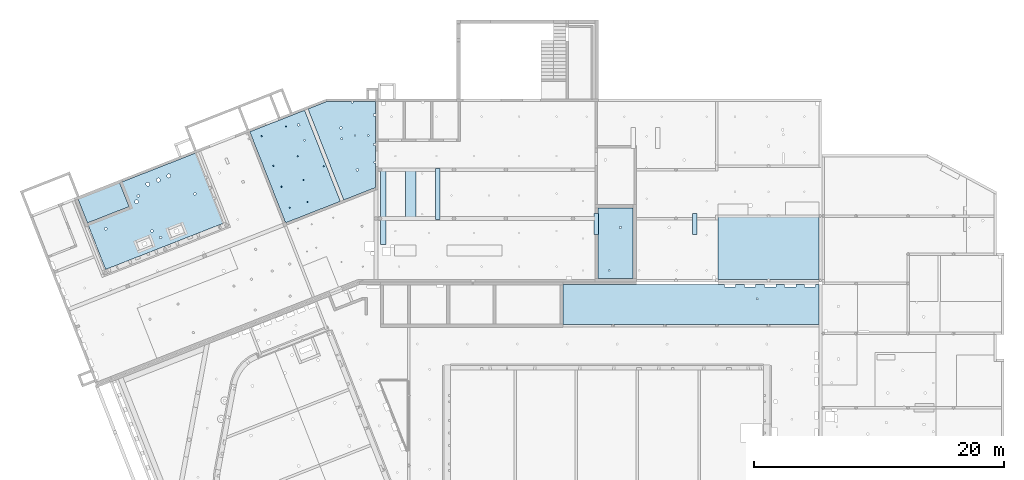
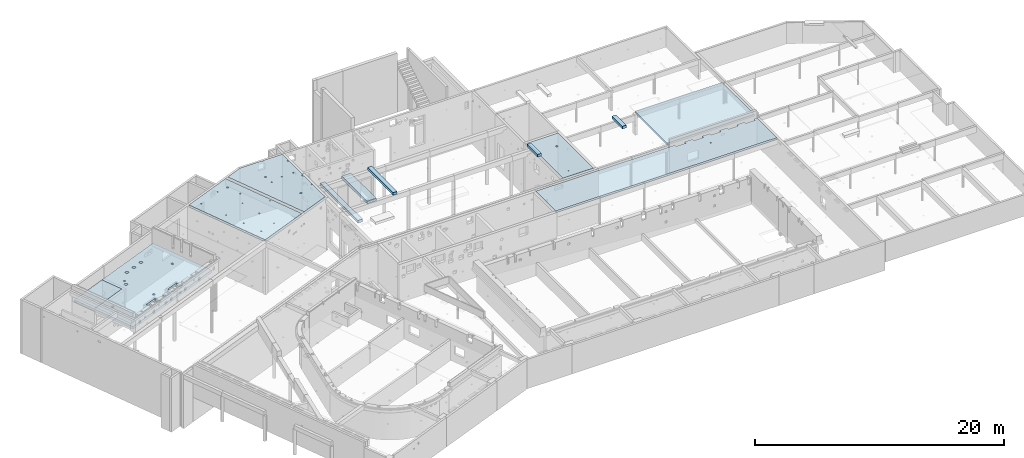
# One storey, part 10 of 28: 11 slabs, 39 openings.
"""IFC2X3 building model written with IfcOpenShell, lengths in metres."""

from ifc_helpers import new_model, entity, si_unit, converted_unit, direction, frame, frame_2d, origin, origin_with_axes, origin_2d_with_axis, place, context, subcontext, project, spatial, polyline, rectangle, circle, outline, extrude, material, element, save


model = new_model("IFC2X3")

# Units and contexts
model_context = context("Model", 3, precision=1e-05, world=origin(), true_north=direction((-0.407059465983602, -0.913401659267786)))
body_context = subcontext(model_context, "Body", "Model", "MODEL_VIEW")
ifc_project = project(units=[si_unit("LENGTHUNIT", "METRE"), si_unit("AREAUNIT", "SQUARE_METRE"), si_unit("VOLUMEUNIT", "CUBIC_METRE"), si_unit("MASSUNIT", "GRAM", prefix="KILO"), converted_unit("PLANEANGLEUNIT", "DEGREE", entity("IfcPlaneAngleMeasure", 0.0174532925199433), si_unit("PLANEANGLEUNIT", "RADIAN"), dimensions=[0, 0, 0, 0, 0, 0, 0])], contexts=[model_context])

# Site, buildings, storey
site_placement = place(None, origin())
site = spatial("IfcSite", under=ifc_project, at=site_placement, Name="Site", CompositionType="ELEMENT")
building_1_placement = place(site_placement, origin())
building_1 = spatial("IfcBuilding", under=site, at=building_1_placement, Name="Site", CompositionType="COMPLEX")
building_2_placement = place(building_1_placement, origin())
building_2 = spatial("IfcBuilding", under=building_1, at=building_2_placement, Name="Bâtiments", CompositionType="ELEMENT")
storey_placement = place(building_2_placement, frame((0.0, 0.0, -5.3)))
storey = spatial("IfcBuildingStorey", under=building_2, at=storey_placement, Name="SOUS-SOL", CompositionType="ELEMENT", Elevation=-5.3)

# Slabs
ifc_material_1 = material(Name="Dalle_BA")
slab_1_placement = place(storey_placement, frame((45.1712427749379, -1.41979729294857, 5.18)))
element("IfcSlab", 1, at=slab_1_placement, inside=storey, material=ifc_material_1, PredefinedType="FLOOR", context=body_context, shape_type="SweptSolid", body=[
    extrude(rectangle(XDim=1.68, YDim=0.38, at=frame_2d((0.19, -0.840000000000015), x_axis=(0.0, -1.0))), frame((0.0, 1.68000000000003, 0.0), z_axis=(0.0, 0.0, 1.0), x_axis=(1.0, 0.0, 0.0)), (0.0, 0.0, 1.0), 0.26),
])
ifc_material_2 = material(Name="Dalle_BA")
slab_2_placement = place(storey_placement, frame((28.0826349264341, -2.21478004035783, 5.18)))
element("IfcSlab", 2, at=slab_2_placement, inside=storey, material=ifc_material_2, PredefinedType="FLOOR", context=body_context, shape_type="SweptSolid", body=[
    extrude(rectangle(XDim=6.06162586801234, YDim=0.430023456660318, at=frame_2d((0.215011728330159, -3.03081293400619), x_axis=(0.0, -1.0))), frame((0.0, 6.06162586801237, 0.0), z_axis=(0.0, 0.0, 1.0), x_axis=(1.0, 0.0, 0.0)), (0.0, 0.0, 1.0), 0.26),
])
ifc_material_3 = material(Name="Dalle_BA")
slab_3_placement = place(storey_placement, frame((30.0626574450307, -0.233154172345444, 5.18)))
element("IfcSlab", 3, at=slab_3_placement, inside=storey, material=ifc_material_3, PredefinedType="FLOOR", context=body_context, shape_type="SweptSolid", body=[
    extrude(rectangle(XDim=4.08, YDim=0.86, at=frame_2d((0.43, -2.04), x_axis=(0.0, -1.0))), frame((0.0, 4.08, 0.0), z_axis=(0.0, 0.0, 1.0), x_axis=(1.0, 0.0, 0.0)), (0.0, 0.0, 1.0), 0.26),
])
ifc_material_4 = material(Name="Dalle_BA")
slab_4_placement = place(storey_placement, frame((32.4726772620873, -0.233154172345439, 5.18)))
element("IfcSlab", 4, at=slab_4_placement, inside=storey, material=ifc_material_4, PredefinedType="FLOOR", context=body_context, shape_type="SweptSolid", body=[
    extrude(rectangle(XDim=4.08, YDim=0.379999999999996, at=frame_2d((0.189999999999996, -2.04), x_axis=(0.0, -1.0))), frame((0.0, 4.08, 0.0), z_axis=(0.0, 0.0, 1.0), x_axis=(1.0, 0.0, 0.0)), (0.0, 0.0, 1.0), 0.26),
])
ifc_material_5 = material(Name="Dalle_BA")
slab_5_placement = place(storey_placement, frame((53.0516308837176, -1.41618710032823, 5.18)))
element("IfcSlab", 5, at=slab_5_placement, inside=storey, material=ifc_material_5, PredefinedType="FLOOR", context=body_context, shape_type="SweptSolid", body=[
    extrude(rectangle(XDim=1.68, YDim=0.38, at=frame_2d((0.19, -0.840000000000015), x_axis=(0.0, -1.0))), frame((0.0, 1.68000000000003, 0.0), z_axis=(0.0, 0.0, 1.0), x_axis=(1.0, 0.0, 0.0)), (0.0, 0.0, 1.0), 0.26),
])

# Slab, openings
ifc_material_6 = material(Name="Dalle_BA")
slab_6_placement = place(storey_placement, frame((45.4926440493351, -4.9689369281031, 4.93)))
slab_6 = element("IfcSlab", 6, at=slab_6_placement, inside=storey, material=ifc_material_6, PredefinedType="FLOOR", context=body_context, shape_type="SweptSolid", body=[
    extrude(outline(polyline([(2.82205293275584, 0.0), (2.82205293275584, 5.67274784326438), (0.0, 5.67274784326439), (0.0, 6.08707630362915e-06), (2.82205293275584, 0.0)])), origin_with_axes(), (0.0, 0.0, 1.0), 0.25),
])
opening_1_placement = place(slab_6_placement, frame((1.70907199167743, 4.021677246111, 0.0)))
element("IfcOpeningElement", 7, at=opening_1_placement, cuts=slab_6, Name="Trémie dans dalle", ObjectType="Opening", context=body_context, shape_type="SweptSolid", body=[
    extrude(circle(Radius=0.0900000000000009, at=frame_2d((1.45519152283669e-14, -2.27373675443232e-16), x_axis=(1.0, 0.0))), frame((0.0896285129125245, 0.0896285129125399, 0.0), z_axis=(0.0, 0.0, 1.0), x_axis=(1.0, 0.0, 0.0)), (0.0, 0.0, 1.0), 0.25),
])
opening_2_placement = place(slab_6_placement, frame((0.847420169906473, 0.613415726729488, 0.0)))
element("IfcOpeningElement", 8, at=opening_2_placement, cuts=slab_6, Name="Trémie dans dalle", ObjectType="Opening", context=body_context, shape_type="SweptSolid", body=[
    extrude(circle(Radius=0.05, at=frame_2d((7.27595761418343e-15, 0.0), x_axis=(1.0, 0.0))), frame((0.0497936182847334, 0.0497936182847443, 0.0), z_axis=(0.0, 0.0, 1.0), x_axis=(1.0, 0.0, 0.0)), (0.0, 0.0, 1.0), 0.25),
])

ifc_material_7 = material(Name="Dalle_BA")
slab_7_placement = place(storey_placement, frame((17.6079277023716, -0.478539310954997, 4.98)))
slab_7 = element("IfcSlab", 9, at=slab_7_placement, inside=storey, material=ifc_material_7, PredefinedType="FLOOR", context=body_context, shape_type="SweptSolid", body=[
    extrude(outline(polyline([(4.38394387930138, 8.99970859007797), (0.0, 7.27965223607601), (2.84509563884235, 0.0282915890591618), (2.8916198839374, 0.0465455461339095), (2.90988219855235, 0.0), (7.24730367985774, 1.70180312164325), (4.38394387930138, 8.99970859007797)])), origin_with_axes(), (0.0, 0.0, 1.0), 0.2),
    extrude(outline(polyline([(2.86335980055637, 0.0), (5.39148675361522, 0.991919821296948), (5.39150255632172, 7.87754960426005), (1.47735122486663, 7.87754960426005), (0.0, 7.29790546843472), (2.86335980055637, 0.0)])), frame((4.66321715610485, 1.81137700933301, 0.0), z_axis=(0.0, 0.0, 1.0), x_axis=(1.0, 0.0, 0.0)), (0.0, 0.0, 1.0), 0.2),
])
opening_3_placement = place(slab_7_placement, frame((3.81130384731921, 7.736444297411, 0.0)))
element("IfcOpeningElement", 10, at=opening_3_placement, cuts=slab_7, Name="Trémie dans dalle", ObjectType="Opening", context=body_context, shape_type="SweptSolid", body=[
    extrude(rectangle(XDim=0.150000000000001, YDim=0.150000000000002, at=frame_2d((1.81898940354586e-15, -9.09494701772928e-16), x_axis=(0.36524629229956, -0.930910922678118))), frame((0.0972117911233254, 0.0972117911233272, 0.0), z_axis=(0.0, 0.0, 1.0), x_axis=(1.0, 0.0, 0.0)), (0.0, 0.0, 1.0), 0.2),
])
opening_4_placement = place(slab_7_placement, frame((4.30534243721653, 6.52370347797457, 0.0)))
element("IfcOpeningElement", 11, at=opening_4_placement, cuts=slab_7, Name="Trémie dans dalle", ObjectType="Opening", context=body_context, shape_type="SweptSolid", body=[
    extrude(rectangle(XDim=0.0999999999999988, YDim=0.100000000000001, at=frame_2d((1.81898940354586e-15, 0.0), x_axis=(0.365246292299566, -0.930910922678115))), frame((0.0648078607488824, 0.0648078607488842, 0.0), z_axis=(0.0, 0.0, 1.0), x_axis=(1.0, 0.0, 0.0)), (0.0, 0.0, 1.0), 0.2),
])
opening_5_placement = place(slab_7_placement, frame((9.95479882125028, 4.78003726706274, 0.0)))
element("IfcOpeningElement", 12, at=opening_5_placement, cuts=slab_7, Name="Trémie dans dalle", ObjectType="Opening", context=body_context, shape_type="SweptSolid", body=[
    extrude(rectangle(XDim=0.1, YDim=0.1, at=frame_2d((-7.27595761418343e-15, -9.09494701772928e-16), x_axis=(0.0, -1.0))), frame((0.0500000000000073, 0.0500000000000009, 0.0), z_axis=(0.0, 0.0, 1.0), x_axis=(1.0, 0.0, 0.0)), (0.0, 0.0, 1.0), 0.2),
])
opening_6_placement = place(slab_7_placement, frame((9.90475263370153, 6.19396034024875, 0.0)))
element("IfcOpeningElement", 13, at=opening_6_placement, cuts=slab_7, Name="Trémie dans dalle", ObjectType="Opening", context=body_context, shape_type="SweptSolid", body=[
    extrude(rectangle(XDim=0.15, YDim=0.15, at=frame_2d((-3.63797880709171e-15, 0.0), x_axis=(0.0, -1.0))), frame((0.0750000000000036, 0.075, 0.0), z_axis=(0.0, 0.0, 1.0), x_axis=(1.0, 0.0, 0.0)), (0.0, 0.0, 1.0), 0.2),
])
opening_7_placement = place(slab_7_placement, frame((9.90471711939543, 8.55907885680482, 0.0)))
element("IfcOpeningElement", 14, at=opening_7_placement, cuts=slab_7, Name="Trémie dans dalle", ObjectType="Opening", context=body_context, shape_type="SweptSolid", body=[
    extrude(rectangle(XDim=0.15, YDim=0.15, at=frame_2d((-3.63797880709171e-15, -1.81898940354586e-15), x_axis=(0.0, -1.0))), frame((0.0750000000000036, 0.0750000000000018, 0.0), z_axis=(0.0, 0.0, 1.0), x_axis=(1.0, 0.0, 0.0)), (0.0, 0.0, 1.0), 0.2),
])
opening_8_placement = place(slab_7_placement, frame((7.31418396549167, 6.6707805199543, 0.0)))
element("IfcOpeningElement", 15, at=opening_8_placement, cuts=slab_7, Name="Trémie dans dalle", ObjectType="Opening", context=body_context, shape_type="SweptSolid", body=[
    extrude(rectangle(XDim=0.1, YDim=0.1, at=frame_2d((0.0, 0.0), x_axis=(0.0, -1.0))), frame((0.05, 0.05, 0.0), z_axis=(0.0, 0.0, 1.0), x_axis=(1.0, 0.0, 0.0)), (0.0, 0.0, 1.0), 0.2),
])
opening_9_placement = place(slab_7_placement, frame((8.36904439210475, 6.92078067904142, 0.0)))
element("IfcOpeningElement", 16, at=opening_9_placement, cuts=slab_7, Name="Trémie dans dalle", ObjectType="Opening", context=body_context, shape_type="SweptSolid", body=[
    extrude(rectangle(XDim=0.1, YDim=0.1, at=frame_2d((0.0, 0.0), x_axis=(0.0, -1.0))), frame((0.05, 0.05, 0.0), z_axis=(0.0, 0.0, 1.0), x_axis=(1.0, 0.0, 0.0)), (0.0, 0.0, 1.0), 0.2),
])
opening_10_placement = place(slab_7_placement, frame((9.44582856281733, 6.92078011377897, 0.0)))
element("IfcOpeningElement", 17, at=opening_10_placement, cuts=slab_7, Name="Trémie dans dalle", ObjectType="Opening", context=body_context, shape_type="SweptSolid", body=[
    extrude(rectangle(XDim=0.1, YDim=0.1, at=frame_2d((0.0, 0.0), x_axis=(0.0, -1.0))), frame((0.05, 0.05, 0.0), z_axis=(0.0, 0.0, 1.0), x_axis=(1.0, 0.0, 0.0)), (0.0, 0.0, 1.0), 0.2),
])
opening_11_placement = place(slab_7_placement, frame((8.15066722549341, 9.58896270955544, 0.0)))
element("IfcOpeningElement", 18, at=opening_11_placement, cuts=slab_7, Name="Trémie dans dalle", ObjectType="Opening", context=body_context, shape_type="SweptSolid", body=[
    extrude(rectangle(XDim=0.1, YDim=0.1, at=frame_2d((0.0, 0.0), x_axis=(0.0, -1.0))), frame((0.05, 0.05, 0.0), z_axis=(0.0, 0.0, 1.0), x_axis=(1.0, 0.0, 0.0)), (0.0, 0.0, 1.0), 0.2),
])
opening_12_placement = place(slab_7_placement, frame((5.87312087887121, 4.47507438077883, 0.18)))
element("IfcOpeningElement", 19, at=opening_12_placement, cuts=slab_7, Name="Trémie dans dalle", ObjectType="Opening", context=body_context, shape_type="SweptSolid", body=[
    extrude(circle(Radius=0.05, at=frame_2d((-3.63797880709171e-15, 9.09494701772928e-16), x_axis=(1.0, 0.0))), frame((0.0497936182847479, 0.0497936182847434, 0.0), z_axis=(0.0, 0.0, 1.0), x_axis=(1.0, 0.0, 0.0)), (0.0, 0.0, 1.0), 0.02),
])
opening_13_placement = place(slab_7_placement, frame((4.25233930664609, 3.37215506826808, 0.18)))
element("IfcOpeningElement", 20, at=opening_13_placement, cuts=slab_7, Name="Trémie dans dalle", ObjectType="Opening", context=body_context, shape_type="SweptSolid", body=[
    extrude(circle(Radius=0.05, at=frame_2d((1.09139364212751e-14, -4.54747350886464e-16), x_axis=(1.0, 0.0))), frame((0.0497936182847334, 0.0497936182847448, 0.0), z_axis=(0.0, 0.0, 1.0), x_axis=(1.0, 0.0, 0.0)), (0.0, 0.0, 1.0), 0.02),
])
opening_14_placement = place(slab_7_placement, frame((4.58206193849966, 1.59956036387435, 0.18)))
element("IfcOpeningElement", 21, at=opening_14_placement, cuts=slab_7, Name="Trémie dans dalle", ObjectType="Opening", context=body_context, shape_type="SweptSolid", body=[
    extrude(circle(Radius=0.05, at=frame_2d((-3.63797880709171e-15, 4.54747350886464e-16), x_axis=(1.0, 0.0))), frame((0.0497936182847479, 0.0497936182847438, 0.0), z_axis=(0.0, 0.0, 1.0), x_axis=(1.0, 0.0, 0.0)), (0.0, 0.0, 1.0), 0.02),
])
opening_15_placement = place(slab_7_placement, frame((3.1519417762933, 1.14390330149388, 0.18)))
element("IfcOpeningElement", 22, at=opening_15_placement, cuts=slab_7, Name="Trémie dans dalle", ObjectType="Opening", context=body_context, shape_type="SweptSolid", body=[
    extrude(circle(Radius=0.05, at=frame_2d((-3.63797880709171e-15, 1.13686837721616e-16), x_axis=(1.0, 0.0))), frame((0.0497936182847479, 0.0497936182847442, 0.0), z_axis=(0.0, 0.0, 1.0), x_axis=(1.0, 0.0, 0.0)), (0.0, 0.0, 1.0), 0.02),
])
opening_16_placement = place(slab_7_placement, frame((2.49456207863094, 2.82280360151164, 0.18)))
element("IfcOpeningElement", 23, at=opening_16_placement, cuts=slab_7, Name="Trémie dans dalle", ObjectType="Opening", context=body_context, shape_type="SweptSolid", body=[
    extrude(circle(Radius=0.05, at=frame_2d((3.63797880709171e-15, -9.09494701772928e-16), x_axis=(1.0, 0.0))), frame((0.0497936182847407, 0.0497936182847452, 0.0), z_axis=(0.0, 0.0, 1.0), x_axis=(1.0, 0.0, 0.0)), (0.0, 0.0, 1.0), 0.02),
])
opening_17_placement = place(slab_7_placement, frame((1.83489803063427, 4.50078157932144, 0.18)))
element("IfcOpeningElement", 24, at=opening_17_placement, cuts=slab_7, Name="Trémie dans dalle", ObjectType="Opening", context=body_context, shape_type="SweptSolid", body=[
    extrude(circle(Radius=0.0500000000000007, at=frame_2d((-3.63797880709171e-15, -9.09494701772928e-16), x_axis=(1.0, 0.0))), frame((0.0497936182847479, 0.0497936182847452, 0.0), z_axis=(0.0, 0.0, 1.0), x_axis=(1.0, 0.0, 0.0)), (0.0, 0.0, 1.0), 0.02),
])
opening_18_placement = place(slab_7_placement, frame((3.79216170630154, 5.27002108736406, 0.18)))
element("IfcOpeningElement", 25, at=opening_18_placement, cuts=slab_7, Name="Trémie dans dalle", ObjectType="Opening", context=body_context, shape_type="SweptSolid", body=[
    extrude(circle(Radius=0.0500000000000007, at=frame_2d((3.63797880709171e-15, -1.81898940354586e-15), x_axis=(1.0, 0.0))), frame((0.0497936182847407, 0.0497936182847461, 0.0), z_axis=(0.0, 0.0, 1.0), x_axis=(1.0, 0.0, 0.0)), (0.0, 0.0, 1.0), 0.02),
])
opening_19_placement = place(slab_7_placement, frame((0.901121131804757, 6.87741780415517, 0.18)))
element("IfcOpeningElement", 26, at=opening_19_placement, cuts=slab_7, Name="Trémie dans dalle", ObjectType="Opening", context=body_context, shape_type="SweptSolid", body=[
    extrude(circle(Radius=0.0500000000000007, at=frame_2d((3.63797880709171e-15, -1.81898940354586e-15), x_axis=(1.0, 0.0))), frame((0.0497936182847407, 0.0497936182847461, 0.0), z_axis=(0.0, 0.0, 1.0), x_axis=(1.0, 0.0, 0.0)), (0.0, 0.0, 1.0), 0.02),
])
opening_20_placement = place(slab_7_placement, frame((2.85883466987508, 7.64551070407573, 0.18)))
element("IfcOpeningElement", 27, at=opening_20_placement, cuts=slab_7, Name="Trémie dans dalle", ObjectType="Opening", context=body_context, shape_type="SweptSolid", body=[
    extrude(circle(Radius=0.0500000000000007, at=frame_2d((-3.63797880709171e-15, 1.81898940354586e-15), x_axis=(1.0, 0.0))), frame((0.0497936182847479, 0.0497936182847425, 0.0), z_axis=(0.0, 0.0, 1.0), x_axis=(1.0, 0.0, 0.0)), (0.0, 0.0, 1.0), 0.02),
])
opening_21_placement = place(slab_7_placement, frame((8.52272134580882, 4.13774948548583, 0.0)))
element("IfcOpeningElement", 28, at=opening_21_placement, cuts=slab_7, Name="Trémie dans dalle", ObjectType="Opening", context=body_context, shape_type="SweptSolid", body=[
    extrude(circle(Radius=0.0900000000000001, at=frame_2d((-1.09139364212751e-14, 0.0), x_axis=(1.0, 0.0))), frame((0.0896285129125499, 0.0896285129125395, 0.0), z_axis=(0.0, 0.0, 1.0), x_axis=(1.0, 0.0, 0.0)), (0.0, 0.0, 1.0), 0.2),
])
opening_22_placement = place(slab_7_placement, frame((7.19734745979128, 7.50588338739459, 0.0)))
element("IfcOpeningElement", 29, at=opening_22_placement, cuts=slab_7, Name="Trémie dans dalle", ObjectType="Opening", context=body_context, shape_type="SweptSolid", body=[
    extrude(circle(Radius=0.0899999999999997, at=frame_2d((1.09139364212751e-14, 2.72848410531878e-15), x_axis=(1.0, 0.0))), frame((0.0896285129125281, 0.0896285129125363, 0.0), z_axis=(0.0, 0.0, 1.0), x_axis=(1.0, 0.0, 0.0)), (0.0, 0.0, 1.0), 0.2),
])

ifc_material_8 = material(Name="Dalle_BA")
slab_8_placement = place(storey_placement, frame((42.6996043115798, -8.63391084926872, 4.96)))
slab_8 = element("IfcSlab", 30, at=slab_8_placement, inside=storey, material=ifc_material_8, PredefinedType="FLOOR", context=body_context, shape_type="SweptSolid", body=[
    extrude(outline(polyline([(0.0, 1.3115641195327e-10), (20.5137637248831, 0.0), (20.5137637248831, 3.19496032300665), (12.9096170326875, 3.19496032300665), (0.000274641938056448, 3.19502133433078), (0.0, 1.3115641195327e-10)])), origin_with_axes(), (0.0, 0.0, 1.0), 0.2),
])
opening_23_placement = place(slab_8_placement, frame((12.9096170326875, 2.98746775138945, 0.0)))
element("IfcOpeningElement", 31, at=opening_23_placement, cuts=slab_8, Name="Trémie dans dalle", ObjectType="Opening", context=body_context, shape_type="SweptSolid", body=[
    extrude(rectangle(XDim=0.899604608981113, YDim=0.207506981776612, at=frame_2d((0.0, -4.54747350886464e-16), x_axis=(1.0, 0.0))), frame((0.449802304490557, 0.103753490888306, 0.0), z_axis=(0.0, 0.0, 1.0), x_axis=(1.0, 0.0, 0.0)), (0.0, 0.0, 1.0), 0.2),
])
opening_24_placement = place(slab_8_placement, frame((14.5291201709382, 2.98746775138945, 0.0)))
element("IfcOpeningElement", 32, at=opening_24_placement, cuts=slab_8, Name="Trémie dans dalle", ObjectType="Opening", context=body_context, shape_type="SweptSolid", body=[
    extrude(rectangle(XDim=0.899604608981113, YDim=0.207506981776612, at=frame_2d((7.27595761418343e-15, -4.54747350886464e-16), x_axis=(1.0, 0.0))), frame((0.449802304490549, 0.103753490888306, 0.0), z_axis=(0.0, 0.0, 1.0), x_axis=(1.0, 0.0, 0.0)), (0.0, 0.0, 1.0), 0.2),
])
opening_25_placement = place(slab_8_placement, frame((16.1485776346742, 2.98746775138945, 0.0)))
element("IfcOpeningElement", 33, at=opening_25_placement, cuts=slab_8, Name="Trémie dans dalle", ObjectType="Opening", context=body_context, shape_type="SweptSolid", body=[
    extrude(rectangle(XDim=0.899604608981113, YDim=0.207506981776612, at=frame_2d((0.0, -4.54747350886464e-16), x_axis=(1.0, 0.0))), frame((0.449802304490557, 0.103753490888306, 0.0), z_axis=(0.0, 0.0, 1.0), x_axis=(1.0, 0.0, 0.0)), (0.0, 0.0, 1.0), 0.2),
])
opening_26_placement = place(slab_8_placement, frame((17.7369762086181, 2.98746114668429, 0.0)))
element("IfcOpeningElement", 34, at=opening_26_placement, cuts=slab_8, Name="Trémie dans dalle", ObjectType="Opening", context=body_context, shape_type="SweptSolid", body=[
    extrude(rectangle(XDim=0.899604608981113, YDim=0.207506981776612, at=frame_2d((-7.27595761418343e-15, 4.54747350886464e-16), x_axis=(1.0, 0.0))), frame((0.449802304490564, 0.103753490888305, 0.0), z_axis=(0.0, 0.0, 1.0), x_axis=(1.0, 0.0, 0.0)), (0.0, 0.0, 1.0), 0.2),
])
opening_27_placement = place(slab_8_placement, frame((19.3252526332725, 2.98745454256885, 0.0)))
element("IfcOpeningElement", 35, at=opening_27_placement, cuts=slab_8, Name="Trémie dans dalle", ObjectType="Opening", context=body_context, shape_type="SweptSolid", body=[
    extrude(rectangle(XDim=0.899604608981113, YDim=0.207506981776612, at=frame_2d((0.0, -4.54747350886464e-16), x_axis=(1.0, 0.0))), frame((0.449802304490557, 0.103753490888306, 0.0), z_axis=(0.0, 0.0, 1.0), x_axis=(1.0, 0.0, 0.0)), (0.0, 0.0, 1.0), 0.2),
])
opening_28_placement = place(slab_8_placement, frame((15.4748673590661, 1.98038639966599, 0.0)))
element("IfcOpeningElement", 36, at=opening_28_placement, cuts=slab_8, Name="Trémie dans dalle", ObjectType="Opening", context=body_context, shape_type="SweptSolid", body=[
    extrude(circle(Radius=0.0649999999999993, at=frame_2d((1.45519152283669e-14, 9.09494701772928e-16), x_axis=(1.0, 0.0))), frame((0.0647317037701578, 0.0647317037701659, 0.0), z_axis=(0.0, 0.0, 1.0), x_axis=(1.0, 0.0, 0.0)), (0.0, 0.0, 1.0), 0.2),
])

ifc_material_9 = material(Name="Béton")
slab_9_placement = place(storey_placement, frame((3.85285940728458, -4.22892576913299, 3.72)))
slab_9 = element("IfcSlab", 37, at=slab_9_placement, inside=storey, material=ifc_material_9, PredefinedType="FLOOR", context=body_context, shape_type="SweptSolid", body=[
    extrude(outline(polyline([(0.0, 5.63318753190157), (2.20671843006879, 0.0), (2.20973716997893, 0.00118383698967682), (2.20974080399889, 0.0011852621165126), (6.89005698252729, 1.83663037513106), (6.89005826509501, 1.8366308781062), (11.659944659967, 3.70720208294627), (9.44959373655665, 9.34077006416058), (3.33049729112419, 6.93992027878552), (4.07938636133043, 5.03121092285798), (0.748892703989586, 3.72447960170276), (3.63378358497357e-06, 5.6331889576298), (0.0, 5.63318753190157)])), origin_with_axes(), (0.0, 0.0, 1.0), 0.25),
])
opening_29_placement = place(slab_9_placement, frame((4.68269151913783, 1.5478546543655, 0.0)))
element("IfcOpeningElement", 38, at=opening_29_placement, cuts=slab_9, Name="Trémie dans dalle", ObjectType="Opening", context=body_context, shape_type="SweptSolid", body=[
    extrude(rectangle(XDim=0.650000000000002, YDim=1.1, at=frame_2d((0.0, 2.27373675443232e-16), x_axis=(0.365246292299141, -0.930910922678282))), frame((0.630706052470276, 0.503431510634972, 0.0), z_axis=(0.0, 0.0, 1.0), x_axis=(1.0, 0.0, 0.0)), (0.0, 0.0, 1.0), 0.25),
])
opening_30_placement = place(slab_9_placement, frame((7.26101190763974, 2.55830531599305, 0.0)))
element("IfcOpeningElement", 39, at=opening_30_placement, cuts=slab_9, Name="Trémie dans dalle", ObjectType="Opening", context=body_context, shape_type="SweptSolid", body=[
    extrude(rectangle(XDim=0.650000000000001, YDim=1.1, at=frame_2d((0.0, 3.41060513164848e-16), x_axis=(0.365246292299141, -0.930910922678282))), frame((0.630706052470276, 0.503431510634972, 0.0), z_axis=(0.0, 0.0, 1.0), x_axis=(1.0, 0.0, 0.0)), (0.0, 0.0, 1.0), 0.25),
])
opening_31_placement = place(slab_9_placement, frame((5.44179914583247, 6.68444549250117, 0.0)))
element("IfcOpeningElement", 40, at=opening_31_placement, cuts=slab_9, Name="Trémie dans dalle", ObjectType="Opening", context=body_context, shape_type="SweptSolid", body=[
    extrude(circle(Radius=0.149999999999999, at=frame_2d((1.81898940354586e-15, 9.09494701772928e-16), x_axis=(1.0, 0.0))), frame((0.149380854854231, 0.149380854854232, 0.0), z_axis=(0.0, 0.0, 1.0), x_axis=(1.0, 0.0, 0.0)), (0.0, 0.0, 1.0), 0.25),
])
opening_32_placement = place(slab_9_placement, frame((6.27979139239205, 7.01272775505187, 0.0)))
element("IfcOpeningElement", 41, at=opening_32_placement, cuts=slab_9, Name="Trémie dans dalle", ObjectType="Opening", context=body_context, shape_type="SweptSolid", body=[
    extrude(circle(Radius=0.149999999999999, at=frame_2d((3.63797880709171e-15, 9.09494701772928e-16), x_axis=(1.0, 0.0))), frame((0.149380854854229, 0.149380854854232, 0.0), z_axis=(0.0, 0.0, 1.0), x_axis=(1.0, 0.0, 0.0)), (0.0, 0.0, 1.0), 0.25),
])
opening_33_placement = place(slab_9_placement, frame((7.11714581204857, 7.34263563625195, 0.0)))
element("IfcOpeningElement", 42, at=opening_33_placement, cuts=slab_9, Name="Trémie dans dalle", ObjectType="Opening", context=body_context, shape_type="SweptSolid", body=[
    extrude(circle(Radius=0.149999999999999, at=frame_2d((0.0, -4.54747350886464e-16), x_axis=(1.0, 0.0))), frame((0.149380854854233, 0.149380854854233, 0.0), z_axis=(0.0, 0.0, 1.0), x_axis=(1.0, 0.0, 0.0)), (0.0, 0.0, 1.0), 0.25),
])
opening_34_placement = place(slab_9_placement, frame((4.72275893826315, 5.78613374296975, 0.0)))
element("IfcOpeningElement", 43, at=opening_34_placement, cuts=slab_9, Name="Trémie dans dalle", ObjectType="Opening", context=body_context, shape_type="SweptSolid", body=[
    extrude(circle(Radius=0.0999999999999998, at=frame_2d((5.45696821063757e-15, -4.54747350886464e-16), x_axis=(1.0, 0.0))), frame((0.100351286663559, 0.100351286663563, 0.0), z_axis=(0.0, 0.0, 1.0), x_axis=(1.0, 0.0, 0.0)), (0.0, 0.0, 1.0), 0.25),
])
opening_35_placement = place(slab_9_placement, frame((4.54001855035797, 5.27251460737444, 0.0)))
element("IfcOpeningElement", 44, at=opening_35_placement, cuts=slab_9, Name="Trémie dans dalle", ObjectType="Opening", context=body_context, shape_type="SweptSolid", body=[
    extrude(circle(Radius=0.149999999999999, at=frame_2d((0.0, 1.13686837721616e-15), x_axis=(1.0, 0.0))), frame((0.149380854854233, 0.149380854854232, 0.0), z_axis=(0.0, 0.0, 1.0), x_axis=(1.0, 0.0, 0.0)), (0.0, 0.0, 1.0), 0.25),
])
opening_36_placement = place(slab_9_placement, frame((9.25133227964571, 5.9524179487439, 0.0)))
element("IfcOpeningElement", 45, at=opening_36_placement, cuts=slab_9, Name="Trémie dans dalle", ObjectType="Opening", context=body_context, shape_type="SweptSolid", body=[
    extrude(circle(Radius=0.0999999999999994, at=frame_2d((-3.63797880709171e-15, 1.13686837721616e-15), x_axis=(1.0, 0.0))), frame((0.100351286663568, 0.100351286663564, 0.0), z_axis=(0.0, 0.0, 1.0), x_axis=(1.0, 0.0, 0.0)), (0.0, 0.0, 1.0), 0.25),
])
opening_37_placement = place(slab_9_placement, frame((5.81910469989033, 2.99594812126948, 0.0)))
element("IfcOpeningElement", 46, at=opening_37_placement, cuts=slab_9, Name="Trémie dans dalle", ObjectType="Opening", context=body_context, shape_type="SweptSolid", body=[
    extrude(circle(Radius=0.0999999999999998, at=frame_2d((0.0, -1.36424205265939e-15), x_axis=(1.0, 0.0))), frame((0.100351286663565, 0.100351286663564, 0.0), z_axis=(0.0, 0.0, 1.0), x_axis=(1.0, 0.0, 0.0)), (0.0, 0.0, 1.0), 0.25),
])
opening_38_placement = place(slab_9_placement, frame((6.50423455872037, 2.4574937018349, -2.27373675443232e-16)))
element("IfcOpeningElement", 47, at=opening_38_placement, cuts=slab_9, Name="Trémie dans dalle", ObjectType="Opening", context=body_context, shape_type="SweptSolid", body=[
    extrude(circle(Radius=0.0999999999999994, at=origin_2d_with_axis()), frame((0.100351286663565, 0.100351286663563, 2.27373675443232e-16), z_axis=(0.0, 0.0, 1.0), x_axis=(1.0, 0.0, 0.0)), (0.0, 0.0, 1.0), 0.25),
])
opening_39_placement = place(slab_9_placement, frame((2.11230123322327, 3.14992233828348, 0.0)))
element("IfcOpeningElement", 48, at=opening_39_placement, cuts=slab_9, Name="Trémie dans dalle", ObjectType="Opening", context=body_context, shape_type="SweptSolid", body=[
    extrude(circle(Radius=0.0999999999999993, at=frame_2d((2.72848410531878e-15, 9.09494701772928e-16), x_axis=(1.0, 0.0))), frame((0.100351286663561, 0.100351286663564, 0.0), z_axis=(0.0, 0.0, 1.0), x_axis=(1.0, 0.0, 0.0)), (0.0, 0.0, 1.0), 0.25),
])

# Slabs
ifc_material_10 = material(Name="Béton")
slab_10_placement = place(storey_placement, frame((3.85286304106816, -0.504446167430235, 3.72)))
element("IfcSlab", 49, at=slab_10_placement, inside=storey, material=ifc_material_10, PredefinedType="FLOOR", context=body_context, shape_type="SweptSolid", body=[
    extrude(rectangle(XDim=3.5776716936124, YDim=2.05036734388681, at=frame_2d((-1.2908022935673, -1.60772033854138), x_axis=(-0.93091092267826, -0.365246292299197))), frame((3.33049365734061, 3.21544067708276, 0.0), z_axis=(0.0, 0.0, 1.0), x_axis=(1.0, 0.0, 0.0)), (0.0, 0.0, 1.0), 0.25),
])
ifc_material_11 = material(Name="Béton")
slab_11_placement = place(storey_placement, frame((55.1124767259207, -5.01895973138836, 5.06)))
element("IfcSlab", 50, at=slab_11_placement, inside=storey, material=ifc_material_11, PredefinedType="FLOOR", context=body_context, shape_type="SweptSolid", body=[
    extrude(outline(polyline([(4.92626509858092, 5.17068874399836), (0.0, 5.17068874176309), (4.67697520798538e-06, 4.97059173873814), (5.24753777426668e-08, 8.25808115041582e-06), (3.9504616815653, 8.25987365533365e-06), (4.15046168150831, 1.30357534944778e-05), (4.15045964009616, 8.26031641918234e-06), (8.10090987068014, 8.26031641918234e-06), (8.10091340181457, 0.0), (8.10091340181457, 5.17068874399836), (4.92626509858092, 5.17068874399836)])), origin_with_axes(), (0.0, 0.0, 1.0), 0.2),
])

save(model, "model.ifc")
